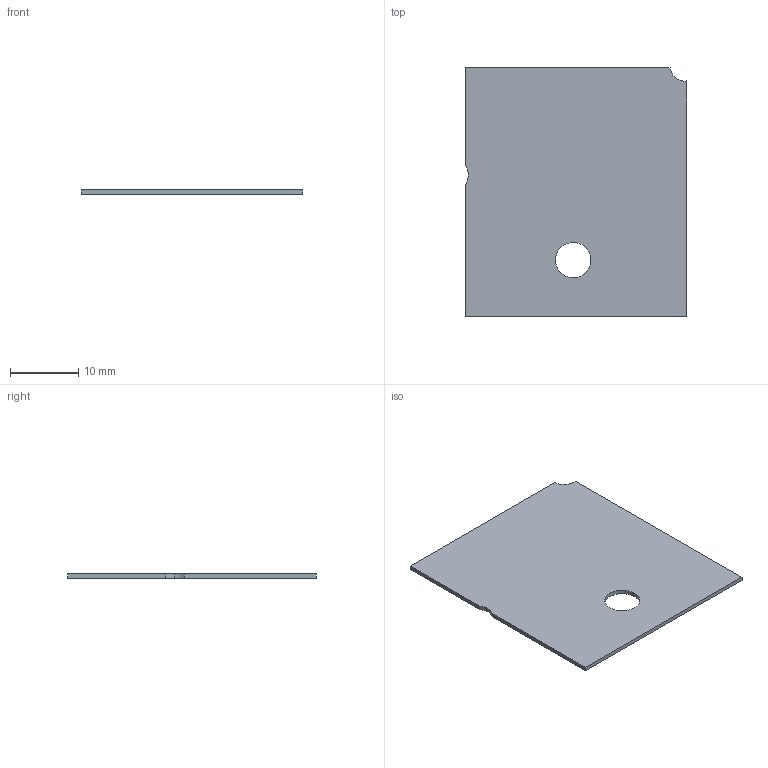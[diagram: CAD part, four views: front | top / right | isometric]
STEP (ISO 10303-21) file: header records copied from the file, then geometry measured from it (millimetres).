
FILE_DESCRIPTION(('Open CASCADE Model'),'2;1');
FILE_NAME('Open CASCADE Shape Model','2026-09-10T00:40:48',('Author'),( 'Open CASCADE'),'Open CASCADE STEP processor 7.8','Open CASCADE 7.8' ,'Unknown');
FILE_SCHEMA(('AUTOMOTIVE_DESIGN { 1 0 10303 214 1 1 1 1 }'));
Length unit declared in the file: millimetre
Products named in the file (1): Open CASCADE STEP translator 7.8 6
Bounding box: 32.5 x 36.5 x 0.6 mm (x, y, z)
Volume: 696.3 mm3; surface area: 2413.1 mm2
Topology: 1 solids, 1 shells, 11 faces, 27 edges, 18 vertices
Faces by surface type: plane 7, cylinder 4
Full cylindrical faces by diameter (mm): 5.2 x1
Entity records: 686 total; most frequent: CARTESIAN_POINT 119, DIRECTION 105, LINE 57, VECTOR 57, ORIENTED_EDGE 54, PCURVE 54, DEFINITIONAL_REPRESENTATION 54, EDGE_CURVE 27
